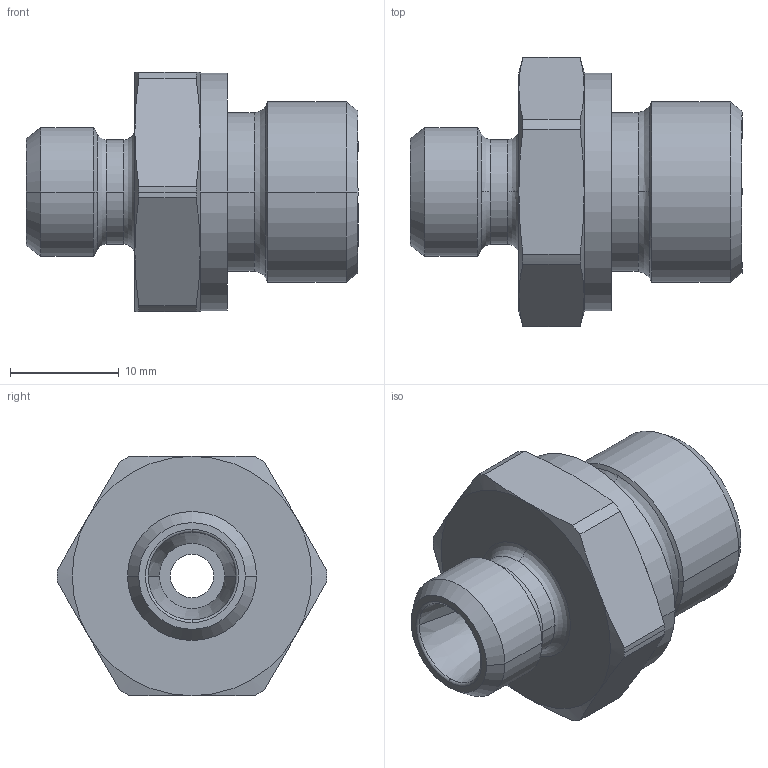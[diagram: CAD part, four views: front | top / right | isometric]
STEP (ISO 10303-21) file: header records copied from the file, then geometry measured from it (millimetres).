
FILE_DESCRIPTION((''),'2;1');
FILE_NAME('100553.stp','2007-10-30T14:22:08',(''),(''),'AutoCAD STEP 2000i','AutoCAD 2000i',', , ');
FILE_SCHEMA(('CONFIG_CONTROL_DESIGN'));
Length unit declared in the file: millimetre
Products named in the file (2): 100553.0; CHIAVE SMUSSATA#0
Assembly tree (1 placements, depth 2):
  100553.0
    CHIAVE SMUSSATA#0
Bounding box: 30.5 x 24.8 x 22 mm (x, y, z)
Volume: 6044.4 mm3; surface area: 2951.6 mm2
Topology: 1 solids, 1 shells, 75 faces, 185 edges, 117 vertices
Faces by surface type: cylinder 24, cone 24, plane 13, bspline 12, torus 2
Entity records: 2835 total; most frequent: CARTESIAN_POINT 955, DIRECTION 410, ORIENTED_EDGE 370, EDGE_CURVE 185, AXIS2_PLACEMENT_3D 184, CIRCLE 119, VERTEX_POINT 117, EDGE_LOOP 82
